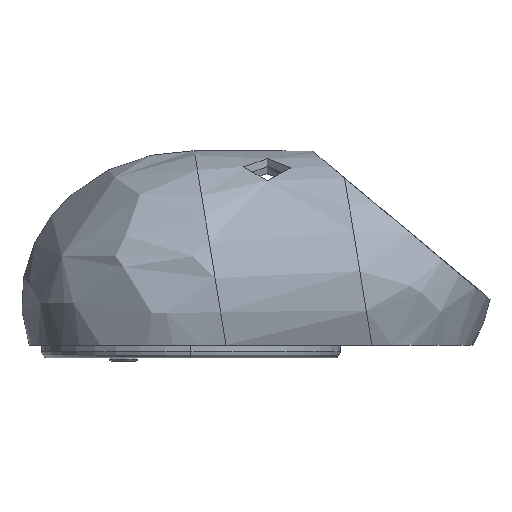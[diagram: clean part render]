
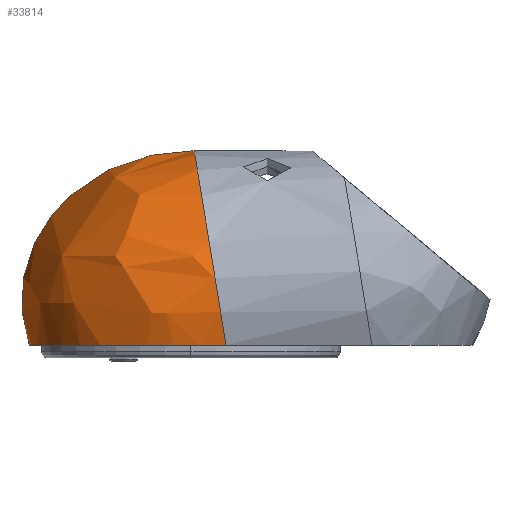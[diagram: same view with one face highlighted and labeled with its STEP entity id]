
A CAD part, left-side view. The second image highlights one B-rep face of the part: STEP entity #33814.
In plain terms, the highlighted free-form (B-spline) face has degree [3, 3] with [4, 7] control points.
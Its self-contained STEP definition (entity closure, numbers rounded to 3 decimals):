
#607 = CARTESIAN_POINT ( 'NONE',  ( -152.63, -100.987, 58.108 ) ) ;
#761 = CARTESIAN_POINT ( 'NONE',  ( 0., -118.712, 107.426 ) ) ;
#1073 = CARTESIAN_POINT ( 'NONE',  ( 0., 69.369, 107.426 ) ) ;
#1220 = CARTESIAN_POINT ( 'NONE',  ( 0., -24.671, 149.108 ) ) ;
#1229 = CARTESIAN_POINT ( 'NONE',  ( 0., -25.563, 149.104 ) ) ;
#1334 =( BOUNDED_CURVE ( )  B_SPLINE_CURVE ( 3, ( #1229, #37827, #23109, #37354 ),
 .UNSPECIFIED., .F., .F. ) 
 B_SPLINE_CURVE_WITH_KNOTS ( ( 4, 4 ),
 ( 0.993, 1. ),
 .UNSPECIFIED. ) 
 CURVE ( )  GEOMETRIC_REPRESENTATION_ITEM ( )  RATIONAL_B_SPLINE_CURVE ( ( 0.994, 0.996, 0.998, 1. ) ) 
 REPRESENTATION_ITEM ( '' )  );
#1371 = CARTESIAN_POINT ( 'NONE',  ( 0., 34.414, 149.108 ) ) ;
#2203 = CARTESIAN_POINT ( 'NONE',  ( 0., 69.369, 107.426 ) ) ;
#3033 = ORIENTED_EDGE ( 'NONE', *, *, #8846, .T. ) ;
#4494 = FACE_OUTER_BOUND ( 'NONE', #43444, .T. ) ;
#5305 = CARTESIAN_POINT ( 'NONE',  ( 0., 69.369, 107.426 ) ) ;
#5453 = CARTESIAN_POINT ( 'NONE',  ( 0., -24.671, 149.108 ) ) ;
#5567 = EDGE_CURVE ( 'NONE', #25749, #24379, #10310, .T. ) ;
#5610 = CARTESIAN_POINT ( 'NONE',  ( 0., -83.757, 149.108 ) ) ;
#5827 = CARTESIAN_POINT ( 'NONE',  ( 0., -24.671, 149.108 ) ) ;
#7871 = CARTESIAN_POINT ( 'NONE',  ( -152.63, 51.644, 58.108 ) ) ;
#8846 = EDGE_CURVE ( 'NONE', #24379, #38464, #1334, .T. ) ;
#9255 = CARTESIAN_POINT ( 'NONE',  ( 0., -24.671, 149.108 ) ) ;
#9504 = ORIENTED_EDGE ( 'NONE', *, *, #41987, .T. ) ;
#9864 = CARTESIAN_POINT ( 'NONE',  ( 0., 51.644, 58.108 ) ) ;
#9945 =( BOUNDED_CURVE ( )  B_SPLINE_CURVE ( 3, ( #13751, #2203, #27567, #5827 ),
 .UNSPECIFIED., .F., .F. ) 
 B_SPLINE_CURVE_WITH_KNOTS ( ( 4, 4 ),
 ( 0., 1. ),
 .UNSPECIFIED. ) 
 CURVE ( )  GEOMETRIC_REPRESENTATION_ITEM ( )  RATIONAL_B_SPLINE_CURVE ( ( 1., 0.728, 0.728, 1. ) ) 
 REPRESENTATION_ITEM ( '' )  );
#10310 =( BOUNDED_CURVE ( )  B_SPLINE_CURVE ( 3, ( #20271, #23774, #16775, #41802 ),
 .UNSPECIFIED., .F., .F. ) 
 B_SPLINE_CURVE_WITH_KNOTS ( ( 4, 4 ),
 ( 0., 0.5 ),
 .UNSPECIFIED. ) 
 CURVE ( )  GEOMETRIC_REPRESENTATION_ITEM ( )  RATIONAL_B_SPLINE_CURVE ( ( 1., 0.72, 0.72, 1. ) ) 
 REPRESENTATION_ITEM ( '' )  );
#11530 = CARTESIAN_POINT ( 'NONE',  ( 188.081, 69.369, 107.426 ) ) ;
#12267 = CIRCLE ( 'NONE', #38523, 76.315 ) ;
#12744 = CARTESIAN_POINT ( 'NONE',  ( 0., -25.563, 149.104 ) ) ;
#13751 = CARTESIAN_POINT ( 'NONE',  ( 0., 51.644, 58.108 ) ) ;
#15812 = CARTESIAN_POINT ( 'NONE',  ( 0., 34.414, 149.108 ) ) ;
#15973 = CARTESIAN_POINT ( 'NONE',  ( -118.171, 34.414, 149.108 ) ) ;
#16114 = CARTESIAN_POINT ( 'NONE',  ( 118.171, 34.414, 149.108 ) ) ;
#16775 = CARTESIAN_POINT ( 'NONE',  ( -59.705, -25.563, 149.104 ) ) ;
#17275 = DIRECTION ( 'NONE',  ( 1., 0., 0. ) ) ;
#18345 = ORIENTED_EDGE ( 'NONE', *, *, #44623, .F. ) ;
#19599 = CARTESIAN_POINT ( 'NONE',  ( 0., -24.671, 149.108 ) ) ;
#20224 = ORIENTED_EDGE ( 'NONE', *, *, #5567, .T. ) ;
#20271 = CARTESIAN_POINT ( 'NONE',  ( -74.673, -40.419, 58.108 ) ) ;
#22493 = CARTESIAN_POINT ( 'NONE',  ( 188.081, -118.712, 107.426 ) ) ;
#22722 = VERTEX_POINT ( 'NONE', #9864 ) ;
#22807 = CARTESIAN_POINT ( 'NONE',  ( 152.63, -100.987, 58.108 ) ) ;
#23109 = CARTESIAN_POINT ( 'NONE',  ( 0., -24.968, 149.108 ) ) ;
#23774 = CARTESIAN_POINT ( 'NONE',  ( -94.296, -32.445, 106.951 ) ) ;
#24379 = VERTEX_POINT ( 'NONE', #12744 ) ;
#25749 = VERTEX_POINT ( 'NONE', #31218 ) ;
#25846 =( BOUNDED_SURFACE ( )  B_SPLINE_SURFACE ( 3, 3, ( 
 ( #44451, #33865, #22807, #40400, #607, #7871, #25987 ),
 ( #1073, #11530, #22493, #761, #26139, #29756, #5305 ),
 ( #15812, #16114, #27217, #5610, #41151, #15973, #1371 ),
 ( #9255, #30687, #26907, #19599, #34319, #5453, #27059 ) ),
 .UNSPECIFIED., .F., .T., .F. ) 
 B_SPLINE_SURFACE_WITH_KNOTS ( ( 4, 4 ),
 ( 4, 3, 4 ),
 ( 0., 1. ),
 ( 0., 0.5, 1. ),
 .UNSPECIFIED. ) 
 GEOMETRIC_REPRESENTATION_ITEM ( )  RATIONAL_B_SPLINE_SURFACE ( (
 ( 1., 0.333, 0.333, 1., 0.333, 0.333, 1.),
 ( 0.728, 0.243, 0.243, 0.728, 0.243, 0.243, 0.728),
 ( 0.728, 0.243, 0.243, 0.728, 0.243, 0.243, 0.728),
 ( 1., 0.333, 0.333, 1., 0.333, 0.333, 1.) ) ) 
 REPRESENTATION_ITEM ( '' )  SURFACE ( )  );
#25987 = CARTESIAN_POINT ( 'NONE',  ( 0., 51.644, 58.108 ) ) ;
#26139 = CARTESIAN_POINT ( 'NONE',  ( -188.082, -118.712, 107.426 ) ) ;
#26907 = CARTESIAN_POINT ( 'NONE',  ( 0., -24.671, 149.108 ) ) ;
#27059 = CARTESIAN_POINT ( 'NONE',  ( 0., -24.671, 149.108 ) ) ;
#27217 = CARTESIAN_POINT ( 'NONE',  ( 118.171, -83.757, 149.108 ) ) ;
#27567 = CARTESIAN_POINT ( 'NONE',  ( 0., 34.414, 149.108 ) ) ;
#29756 = CARTESIAN_POINT ( 'NONE',  ( -188.082, 69.369, 107.426 ) ) ;
#30687 = CARTESIAN_POINT ( 'NONE',  ( 0., -24.671, 149.108 ) ) ;
#31218 = CARTESIAN_POINT ( 'NONE',  ( -74.673, -40.419, 58.108 ) ) ;
#31698 = CARTESIAN_POINT ( 'NONE',  ( 0., -24.671, 58.108 ) ) ;
#33814 = ADVANCED_FACE ( 'NONE', ( #4494 ), #25846, .T. ) ;
#33865 = CARTESIAN_POINT ( 'NONE',  ( 152.63, 51.644, 58.108 ) ) ;
#34319 = CARTESIAN_POINT ( 'NONE',  ( 0., -24.671, 149.108 ) ) ;
#35498 = DIRECTION ( 'NONE',  ( 0., 0., 1. ) ) ;
#37354 = CARTESIAN_POINT ( 'NONE',  ( 0., -24.671, 149.108 ) ) ;
#37827 = CARTESIAN_POINT ( 'NONE',  ( 0., -25.265, 149.107 ) ) ;
#38464 = VERTEX_POINT ( 'NONE', #1220 ) ;
#38523 = AXIS2_PLACEMENT_3D ( 'NONE', #31698, #35498, #17275 ) ;
#40400 = CARTESIAN_POINT ( 'NONE',  ( 0., -100.987, 58.108 ) ) ;
#41151 = CARTESIAN_POINT ( 'NONE',  ( -118.171, -83.757, 149.108 ) ) ;
#41802 = CARTESIAN_POINT ( 'NONE',  ( 0., -25.563, 149.104 ) ) ;
#41987 = EDGE_CURVE ( 'NONE', #22722, #25749, #12267, .T. ) ;
#43444 = EDGE_LOOP ( 'NONE', ( #20224, #3033, #18345, #9504 ) ) ;
#44451 = CARTESIAN_POINT ( 'NONE',  ( 0., 51.644, 58.108 ) ) ;
#44623 = EDGE_CURVE ( 'NONE', #22722, #38464, #9945, .T. ) ;
